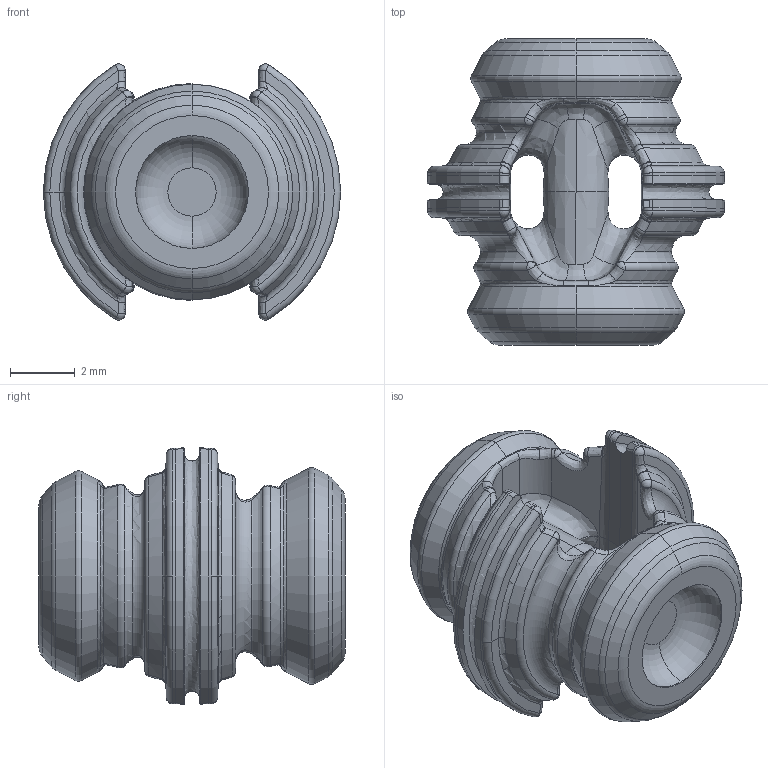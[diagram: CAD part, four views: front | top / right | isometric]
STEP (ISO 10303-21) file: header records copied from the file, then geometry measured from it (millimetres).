
FILE_DESCRIPTION (( 'STEP AP203' ), '1' );
FILE_NAME ('Diva Male 1 mm_customer_.STEP', '2023-06-08T08:54:20', ( '' ), ( '' ), 'SwSTEP 2.0', 'SolidWorks 2022', '' );
FILE_SCHEMA (( 'CONFIG_CONTROL_DESIGN' ));
Length unit declared in the file: millimetre
Products named in the file (1): Diva Male 1 mm_customer_
Bounding box: 9.22 x 9.5 x 7.95 mm (x, y, z)
Volume: 228.7 mm3; surface area: 385 mm2
Topology: 1 solids, 1 shells, 278 faces, 694 edges, 394 vertices
Faces by surface type: bspline 98, cone 62, torus 52, sphere 28, plane 24, cylinder 14
Entity records: 10477 total; most frequent: CARTESIAN_POINT 4913, ORIENTED_EDGE 1280, DIRECTION 1010, EDGE_CURVE 640, AXIS2_PLACEMENT_3D 465, VERTEX_POINT 362, CIRCLE 284, EDGE_LOOP 280
